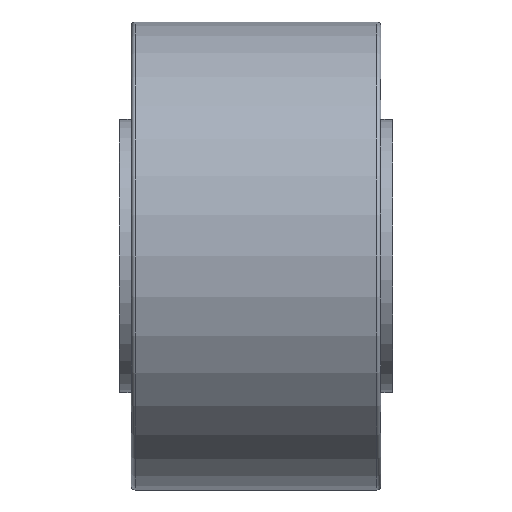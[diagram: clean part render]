
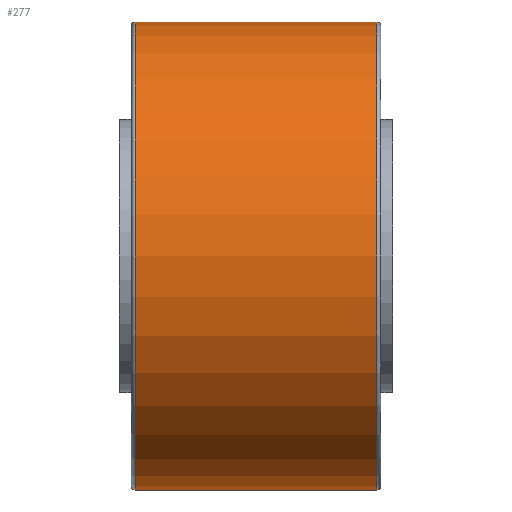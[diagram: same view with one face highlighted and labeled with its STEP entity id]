
A CAD part, front view. The second image highlights one B-rep face of the part: STEP entity #277.
In plain terms, the highlighted cylindrical face has radius 60 mm (diameter 120 mm), a partial arc.
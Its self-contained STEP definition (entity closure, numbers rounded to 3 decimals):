
#143 = VERTEX_POINT ( 'NONE', #514 ) ;
#151 = VERTEX_POINT ( 'NONE', #1911 ) ;
#164 = VERTEX_POINT ( 'NONE', #565 ) ;
#177 = VERTEX_POINT ( 'NONE', #608 ) ;
#259 = EDGE_LOOP ( 'NONE', ( #267, #266, #291, #298 ) ) ;
#266 = ORIENTED_EDGE ( 'NONE', *, *, #300, .T. ) ;
#267 = ORIENTED_EDGE ( 'NONE', *, *, #1757, .F. ) ;
#277 = ADVANCED_FACE ( 'NONE', ( #752 ), #788, .T. ) ;
#291 = ORIENTED_EDGE ( 'NONE', *, *, #1759, .T. ) ;
#298 = ORIENTED_EDGE ( 'NONE', *, *, #299, .T. ) ;
#299 = EDGE_CURVE ( 'NONE', #143, #177, #777, .T. ) ;
#300 = EDGE_CURVE ( 'NONE', #164, #151, #795, .T. ) ;
#514 = CARTESIAN_POINT ( 'NONE',  ( -31., 0., 60. ) ) ;
#565 = CARTESIAN_POINT ( 'NONE',  ( 31., 0., -60. ) ) ;
#608 = CARTESIAN_POINT ( 'NONE',  ( -31., 0., -60. ) ) ;
#752 = FACE_OUTER_BOUND ( 'NONE', #259, .T. ) ;
#777 = CIRCLE ( 'NONE', #808, 60. ) ;
#784 = DIRECTION ( 'NONE',  ( 0., 0., 1. ) ) ;
#785 = DIRECTION ( 'NONE',  ( -1., 0., 0. ) ) ;
#786 = CARTESIAN_POINT ( 'NONE',  ( -41.122, 0., 0. ) ) ;
#787 = AXIS2_PLACEMENT_3D ( 'NONE', #786, #785, #784 ) ;
#788 = CYLINDRICAL_SURFACE ( 'NONE', #787, 60. ) ;
#791 = DIRECTION ( 'NONE',  ( 0., 0., 1. ) ) ;
#792 = DIRECTION ( 'NONE',  ( -1., 0., 0. ) ) ;
#793 = CARTESIAN_POINT ( 'NONE',  ( 31., 0., 0. ) ) ;
#795 = CIRCLE ( 'NONE', #805, 60. ) ;
#796 = DIRECTION ( 'NONE',  ( 0., 0., -1. ) ) ;
#797 = DIRECTION ( 'NONE',  ( 1., 0., 0. ) ) ;
#798 = CARTESIAN_POINT ( 'NONE',  ( -31., 0., 0. ) ) ;
#805 = AXIS2_PLACEMENT_3D ( 'NONE', #793, #792, #791 ) ;
#808 = AXIS2_PLACEMENT_3D ( 'NONE', #798, #797, #796 ) ;
#1035 = DIRECTION ( 'NONE',  ( -1., 0., 0. ) ) ;
#1036 = VECTOR ( 'NONE', #1035, 1000. ) ;
#1037 = CARTESIAN_POINT ( 'NONE',  ( -41.122, 0., 60. ) ) ;
#1038 = LINE ( 'NONE', #1037, #1036 ) ;
#1041 = DIRECTION ( 'NONE',  ( -1., 0., 0. ) ) ;
#1042 = VECTOR ( 'NONE', #1041, 1000. ) ;
#1043 = CARTESIAN_POINT ( 'NONE',  ( -41.122, 0., -60. ) ) ;
#1044 = LINE ( 'NONE', #1043, #1042 ) ;
#1757 = EDGE_CURVE ( 'NONE', #164, #177, #1044, .T. ) ;
#1759 = EDGE_CURVE ( 'NONE', #151, #143, #1038, .T. ) ;
#1911 = CARTESIAN_POINT ( 'NONE',  ( 31., 0., 60. ) ) ;
